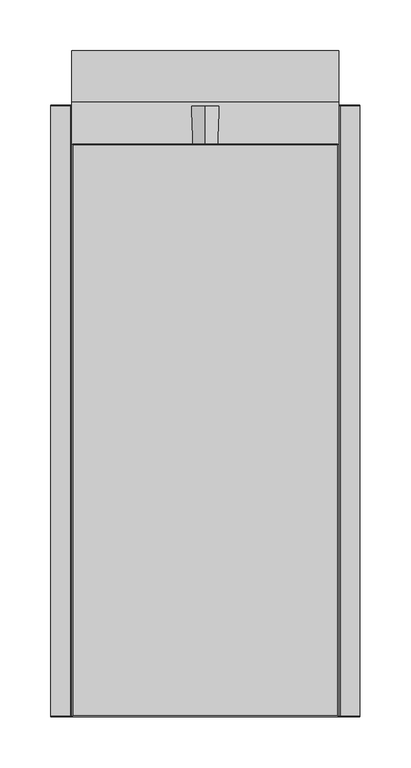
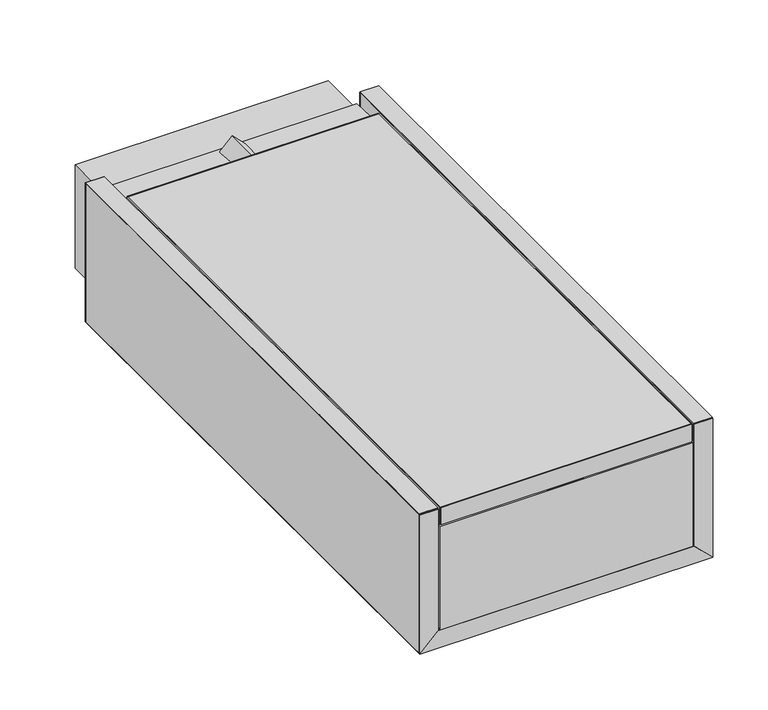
"""IFC4 building model written with IfcOpenShell, lengths in millimetres: proxy geometry, AERO^TABLE 3__AMC-611-V-109."""

from ifc_helpers import new_model, si_unit, point, frame, frame_2d, origin, origin_with_axes, place, context, project, spatial, polyline, circle_curve, trimmed, segment, composite_curve, outline, extrude, source, transform, mapped, element, save


def generic_models_412bd085(model_context):
    return source(origin(), model_context, "Body", "SweptSolid", [
        extrude(outline(polyline([(0.0, -1.5875), (-19.05, -20.6375), (-19.05, 284.1625), (0.0, 265.1125), (0.0, -1.5875)])), frame((0.0, -5.9132375, 0.0), z_axis=(0.0, 1.0, 0.0), x_axis=(0.0, 0.0, 1.0)), (0.0, 0.0, 1.0), 0.889),
        extrude(outline(polyline([(0.0, -1.5875), (-19.05, -20.6375), (-19.05, 284.1625), (0.0, 265.1125), (0.0, -1.5875)])), frame((0.0, 596.4477625, 0.0), z_axis=(0.0, 1.0, 0.0), x_axis=(0.0, 0.0, 1.0)), (0.0, 0.0, 1.0), 0.889),
        extrude(outline(polyline([(-19.05, 284.1625), (133.35, 131.7625), (-19.05, -20.6375), (-19.05, 284.1625)])), frame((0.0, -5.0242375, 0.0), z_axis=(0.0, 1.0, 0.0), x_axis=(0.0, 0.0, 1.0)), (0.0, 0.0, 1.0), 601.472),
        extrude(outline(polyline([(-19.05, -20.6375), (0.0, -1.5875), (133.985, -1.5875), (133.985, -20.6375), (-19.05, -20.6375)])), frame((0.0, 596.4477625, 0.0), z_axis=(0.0, 1.0, 0.0), x_axis=(0.0, 0.0, 1.0)), (0.0, 0.0, 1.0), 0.889),
        extrude(outline(polyline([(-19.05, -20.6375), (0.0, -1.5875), (133.985, -1.5875), (133.985, -20.6375), (-19.05, -20.6375)])), frame((0.0, -5.9132375, 0.0), z_axis=(0.0, 1.0, 0.0), x_axis=(0.0, 0.0, 1.0)), (0.0, 0.0, 1.0), 0.889),
        extrude(outline(polyline([(-19.05, -20.6375), (0.0, -1.5875), (133.985, -1.5875), (133.985, -20.6375), (-19.05, -20.6375)])), frame((0.0, -5.0242375, 0.0), z_axis=(0.0, 1.0, 0.0), x_axis=(0.0, 0.0, 1.0)), (0.0, 0.0, 1.0), 601.472),
        extrude(outline(polyline([(-1.5875, 596.4477625), (-1.5875, -5.0242375), (-20.6375, -5.0242375), (-20.6375, 596.4477625), (-1.5875, 596.4477625)])), frame((0.0, 0.0, 133.985), z_axis=(0.0, 0.0, 1.0), x_axis=(1.0, 0.0, 0.0)), (0.0, 0.0, 1.0), 0.889),
        extrude(outline(polyline([(0.0, 265.1125), (-19.05, 284.1625), (133.985, 284.1625), (133.985, 265.1125), (0.0, 265.1125)])), frame((0.0, -5.9132375, 0.0), z_axis=(0.0, 1.0, 0.0), x_axis=(0.0, 0.0, 1.0)), (0.0, 0.0, 1.0), 0.889),
        extrude(outline(polyline([(0.0, 265.1125), (-19.05, 284.1625), (133.985, 284.1625), (133.985, 265.1125), (0.0, 265.1125)])), frame((0.0, 596.4477625, 0.0), z_axis=(0.0, 1.0, 0.0), x_axis=(0.0, 0.0, 1.0)), (0.0, 0.0, 1.0), 0.889),
        extrude(outline(polyline([(0.0, 265.1125), (-19.05, 284.1625), (133.985, 284.1625), (133.985, 265.1125), (0.0, 265.1125)])), frame((0.0, -5.0242375, 0.0), z_axis=(0.0, 1.0, 0.0), x_axis=(0.0, 0.0, 1.0)), (0.0, 0.0, 1.0), 601.472),
        extrude(outline(polyline([(265.1125, -5.0242375), (265.1125, 596.4477625), (284.1625, 596.4477625), (284.1625, -5.0242375), (265.1125, -5.0242375)])), frame((0.0, 0.0, 133.985), z_axis=(0.0, 0.0, 1.0), x_axis=(1.0, 0.0, 0.0)), (0.0, 0.0, 1.0), 0.889),
        extrude(outline(composite_curve([segment(polyline([(600.1835039, 117.6995994), (552.5932816, 119.552014), (552.6803072, 121.7877811), (600.2705295, 119.9353664)]), True, "CONTINUOUS"), segment(trimmed(circle_curve(frame_2d((598.271437, 118.8936024)), 2.25425), [point((600.2705295, 119.9353664))], [point((600.1835039, 117.6995994))], False, "CARTESIAN"), True, "CONTINUOUS")], self_intersect=False)), frame((0.0, 0.0, 0.0), z_axis=(1.0, 0.0, 0.0), x_axis=(0.0, 1.0, 0.0)), (0.0, 0.0, 1.0), 263.525),
        extrude(outline(polyline([(262.509, 558.3477625), (0.889, 558.3477625), (0.889, 559.2367625), (262.509, 559.2367625), (262.509, 558.3477625)])), frame((0.0, 0.0, 125.4125), z_axis=(0.0, 0.0, 1.0), x_axis=(1.0, 0.0, 0.0)), (0.0, 0.0, 1.0), 9.525),
        extrude(outline(polyline([(0.889, 558.3477625), (0.889, -5.0242375), (0.0, -5.0242375), (0.0, 558.3477625), (0.889, 558.3477625)])), frame((0.0, 0.0, 115.8875), z_axis=(0.0, 0.0, 1.0), x_axis=(1.0, 0.0, 0.0)), (0.0, 0.0, 1.0), 19.05),
        extrude(outline(polyline([(0.889, -5.0242375), (262.509, -5.0242375), (262.509, -5.9132375), (0.889, -5.9132375), (0.889, -5.0242375)])), frame((0.0, 0.0, 115.8875), z_axis=(0.0, 0.0, 1.0), x_axis=(1.0, 0.0, 0.0)), (0.0, 0.0, 1.0), 19.05),
        extrude(outline(polyline([(263.398, 558.3477625), (263.398, -5.0242375), (262.509, -5.0242375), (262.509, 558.3477625), (263.398, 558.3477625)])), frame((0.0, 0.0, 115.8875), z_axis=(0.0, 0.0, 1.0), x_axis=(1.0, 0.0, 0.0)), (0.0, 0.0, 1.0), 19.05),
        extrude(outline(polyline([(0.889, 558.3477625), (262.509, 558.3477625), (262.509, -5.0242375), (0.889, -5.0242375), (0.889, 558.3477625)])), frame((0.0, 0.0, 115.8875), z_axis=(0.0, 0.0, 1.0), x_axis=(1.0, 0.0, 0.0)), (0.0, 0.0, 1.0), 19.05),
        extrude(outline(polyline([(0.0, 651.3117625), (263.525, 651.3117625), (263.525, -5.9132375), (0.0, -5.9132375), (0.0, 651.3117625)])), origin_with_axes(), (0.0, 0.0, 1.0), 114.3),
    ])


if __name__ == "__main__":
    model = new_model("IFC4")
    model_context = context("Model", 3, world=origin())
    ifc_project = project(units=[si_unit("LENGTHUNIT", "METRE", prefix="MILLI")], contexts=[model_context])
    site = spatial("IfcSite", under=ifc_project)
    building = spatial("IfcBuilding", under=site)
    placement = place(None, origin())
    generic_models_shape = generic_models_412bd085(model_context)
    element("IfcBuildingElementProxy", 1, Name="AERO^TABLE 3__AMC-611-V-109", ObjectType="AERO^TABLE 3__AMC-611-V-109", at=placement, inside=building, context=model_context, shape_type="MappedRepresentation", body=[
        mapped(generic_models_shape, transform((0.0, 0.0, 0.0), x_axis=(1.0, 0.0, 0.0), y_axis=(0.0, 1.0, 0.0), z_axis=(0.0, 0.0, 1.0))),
    ])
    save(model, "model.ifc")
